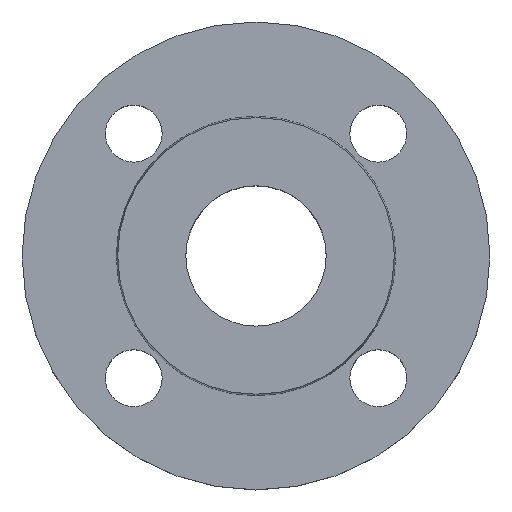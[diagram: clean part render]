
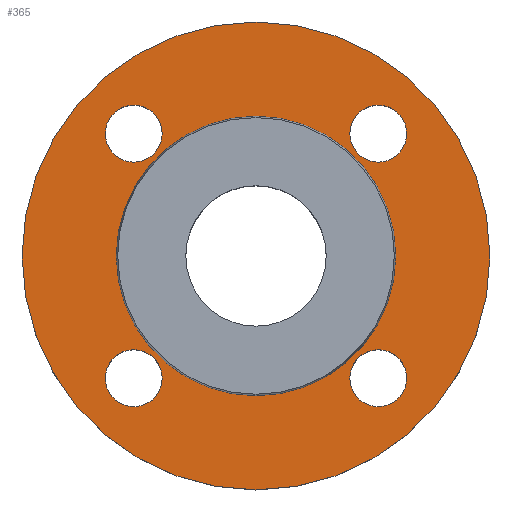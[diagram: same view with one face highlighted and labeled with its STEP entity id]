
A CAD part, top view. The second image highlights one B-rep face of the part: STEP entity #365.
In plain terms, the highlighted planar face has unit normal (0, 0, 1).
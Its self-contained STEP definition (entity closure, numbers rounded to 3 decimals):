
#4 = CIRCLE ( 'NONE', #5, 34.353 ) ;
#5 = AXIS2_PLACEMENT_3D ( 'NONE', #291, #293, #295 ) ;
#12 = AXIS2_PLACEMENT_3D ( 'NONE', #347, #348, #349 ) ;
#15 = DIRECTION ( 'NONE',  ( 0., 0., -1. ) ) ;
#17 = CARTESIAN_POINT ( 'NONE',  ( -23.052, 30.052, -2. ) ) ;
#18 = AXIS2_PLACEMENT_3D ( 'NONE', #376, #377, #378 ) ;
#20 = AXIS2_PLACEMENT_3D ( 'NONE', #108, #126, #110 ) ;
#49 = CIRCLE ( 'NONE', #52, 7. ) ;
#52 = AXIS2_PLACEMENT_3D ( 'NONE', #136, #15, #134 ) ;
#57 = CIRCLE ( 'NONE', #61, 7. ) ;
#61 = AXIS2_PLACEMENT_3D ( 'NONE', #361, #120, #139 ) ;
#62 = AXIS2_PLACEMENT_3D ( 'NONE', #350, #351, #352 ) ;
#82 = CARTESIAN_POINT ( 'NONE',  ( 37.052, 30.052, -2. ) ) ;
#85 = CARTESIAN_POINT ( 'NONE',  ( 57.5, 0., -2. ) ) ;
#86 = CARTESIAN_POINT ( 'NONE',  ( -23.052, -30.052, -2. ) ) ;
#91 = CARTESIAN_POINT ( 'NONE',  ( -37.052, 30.052, -2. ) ) ;
#92 = DIRECTION ( 'NONE',  ( 1., 0., 0. ) ) ;
#94 = CARTESIAN_POINT ( 'NONE',  ( 30.052, 30.052, -2. ) ) ;
#96 = DIRECTION ( 'NONE',  ( 0., 0., -1. ) ) ;
#97 = CARTESIAN_POINT ( 'NONE',  ( -34.353, 0., -2. ) ) ;
#108 = CARTESIAN_POINT ( 'NONE',  ( -30.052, 30.052, -2. ) ) ;
#110 = DIRECTION ( 'NONE',  ( 1., 0., 0. ) ) ;
#114 = CARTESIAN_POINT ( 'NONE',  ( 34.353, 0., -2. ) ) ;
#120 = DIRECTION ( 'NONE',  ( 0., 0., -1. ) ) ;
#123 = EDGE_CURVE ( 'NONE', #416, #560, #175, .T. ) ;
#126 = DIRECTION ( 'NONE',  ( 0., 0., -1. ) ) ;
#128 = CARTESIAN_POINT ( 'NONE',  ( 37.052, -30.052, -2. ) ) ;
#131 = CARTESIAN_POINT ( 'NONE',  ( 23.052, 30.052, -2. ) ) ;
#133 = CIRCLE ( 'NONE', #18, 7. ) ;
#134 = DIRECTION ( 'NONE',  ( 1., 0., 0. ) ) ;
#136 = CARTESIAN_POINT ( 'NONE',  ( -30.052, -30.052, -2. ) ) ;
#139 = DIRECTION ( 'NONE',  ( 1., 0., 0. ) ) ;
#142 = AXIS2_PLACEMENT_3D ( 'NONE', #643, #644, #645 ) ;
#147 = CARTESIAN_POINT ( 'NONE',  ( -57.5, 0., -2. ) ) ;
#151 = CIRCLE ( 'NONE', #20, 7. ) ;
#154 = CIRCLE ( 'NONE', #278, 7. ) ;
#175 = CIRCLE ( 'NONE', #142, 7. ) ;
#193 = CIRCLE ( 'NONE', #247, 57.5 ) ;
#195 = CARTESIAN_POINT ( 'NONE',  ( 23.052, -30.052, -2. ) ) ;
#203 = EDGE_CURVE ( 'NONE', #423, #513, #154, .T. ) ;
#226 = CIRCLE ( 'NONE', #62, 57.5 ) ;
#235 = AXIS2_PLACEMENT_3D ( 'NONE', #688, #689, #690 ) ;
#238 = CIRCLE ( 'NONE', #235, 34.353 ) ;
#242 = EDGE_CURVE ( 'NONE', #420, #594, #267, .T. ) ;
#244 = EDGE_CURVE ( 'NONE', #550, #417, #238, .T. ) ;
#247 = AXIS2_PLACEMENT_3D ( 'NONE', #327, #329, #330 ) ;
#265 = AXIS2_PLACEMENT_3D ( 'NONE', #685, #686, #687 ) ;
#267 = CIRCLE ( 'NONE', #265, 7. ) ;
#270 = AXIS2_PLACEMENT_3D ( 'NONE', #94, #96, #92 ) ;
#278 = AXIS2_PLACEMENT_3D ( 'NONE', #665, #666, #667 ) ;
#280 = CIRCLE ( 'NONE', #270, 7. ) ;
#291 = CARTESIAN_POINT ( 'NONE',  ( 0., 0., -2. ) ) ;
#293 = DIRECTION ( 'NONE',  ( 0., 0., -1. ) ) ;
#295 = DIRECTION ( 'NONE',  ( -1., 0., 0. ) ) ;
#301 = EDGE_CURVE ( 'NONE', #417, #550, #4, .T. ) ;
#327 = CARTESIAN_POINT ( 'NONE',  ( 0., 0., -2. ) ) ;
#329 = DIRECTION ( 'NONE',  ( 0., 0., -1. ) ) ;
#330 = DIRECTION ( 'NONE',  ( -1., 0., 0. ) ) ;
#338 = FACE_BOUND ( 'NONE', #582, .T. ) ;
#339 = FACE_BOUND ( 'NONE', #593, .T. ) ;
#340 = FACE_BOUND ( 'NONE', #495, .T. ) ;
#342 = FACE_BOUND ( 'NONE', #551, .T. ) ;
#343 = FACE_BOUND ( 'NONE', #515, .T. ) ;
#344 = FACE_OUTER_BOUND ( 'NONE', #506, .T. ) ;
#345 = PLANE ( 'NONE',  #12 ) ;
#346 = EDGE_CURVE ( 'NONE', #586, #517, #193, .T. ) ;
#347 = CARTESIAN_POINT ( 'NONE',  ( 34.353, 0., -2. ) ) ;
#348 = DIRECTION ( 'NONE',  ( 0., 0., 1. ) ) ;
#349 = DIRECTION ( 'NONE',  ( 1., 0., 0. ) ) ;
#350 = CARTESIAN_POINT ( 'NONE',  ( 0., 0., -2. ) ) ;
#351 = DIRECTION ( 'NONE',  ( 0., 0., -1. ) ) ;
#352 = DIRECTION ( 'NONE',  ( -1., 0., 0. ) ) ;
#361 = CARTESIAN_POINT ( 'NONE',  ( -30.052, -30.052, -2. ) ) ;
#365 = ADVANCED_FACE ( 'NONE', ( #338, #339, #340, #342, #343, #344 ), #345, .T. ) ;
#373 = EDGE_CURVE ( 'NONE', #517, #586, #226, .T. ) ;
#376 = CARTESIAN_POINT ( 'NONE',  ( 30.052, -30.052, -2. ) ) ;
#377 = DIRECTION ( 'NONE',  ( 0., 0., -1. ) ) ;
#378 = DIRECTION ( 'NONE',  ( 1., 0., 0. ) ) ;
#396 = CARTESIAN_POINT ( 'NONE',  ( -37.052, -30.052, -2. ) ) ;
#405 = EDGE_CURVE ( 'NONE', #513, #423, #133, .T. ) ;
#409 = EDGE_CURVE ( 'NONE', #560, #416, #151, .T. ) ;
#416 = VERTEX_POINT ( 'NONE', #17 ) ;
#417 = VERTEX_POINT ( 'NONE', #114 ) ;
#418 = ORIENTED_EDGE ( 'NONE', *, *, #346, .F. ) ;
#419 = EDGE_CURVE ( 'NONE', #585, #508, #49, .T. ) ;
#420 = VERTEX_POINT ( 'NONE', #131 ) ;
#423 = VERTEX_POINT ( 'NONE', #128 ) ;
#428 = ORIENTED_EDGE ( 'NONE', *, *, #373, .F. ) ;
#460 = EDGE_CURVE ( 'NONE', #508, #585, #57, .T. ) ;
#480 = ORIENTED_EDGE ( 'NONE', *, *, #203, .T. ) ;
#481 = ORIENTED_EDGE ( 'NONE', *, *, #405, .T. ) ;
#483 = ORIENTED_EDGE ( 'NONE', *, *, #419, .T. ) ;
#484 = ORIENTED_EDGE ( 'NONE', *, *, #460, .T. ) ;
#486 = ORIENTED_EDGE ( 'NONE', *, *, #123, .T. ) ;
#487 = ORIENTED_EDGE ( 'NONE', *, *, #409, .T. ) ;
#489 = ORIENTED_EDGE ( 'NONE', *, *, #554, .T. ) ;
#490 = ORIENTED_EDGE ( 'NONE', *, *, #242, .T. ) ;
#491 = ORIENTED_EDGE ( 'NONE', *, *, #244, .T. ) ;
#493 = ORIENTED_EDGE ( 'NONE', *, *, #301, .T. ) ;
#495 = EDGE_LOOP ( 'NONE', ( #486, #487 ) ) ;
#506 = EDGE_LOOP ( 'NONE', ( #418, #428 ) ) ;
#508 = VERTEX_POINT ( 'NONE', #396 ) ;
#513 = VERTEX_POINT ( 'NONE', #195 ) ;
#515 = EDGE_LOOP ( 'NONE', ( #491, #493 ) ) ;
#517 = VERTEX_POINT ( 'NONE', #147 ) ;
#550 = VERTEX_POINT ( 'NONE', #97 ) ;
#551 = EDGE_LOOP ( 'NONE', ( #489, #490 ) ) ;
#554 = EDGE_CURVE ( 'NONE', #594, #420, #280, .T. ) ;
#560 = VERTEX_POINT ( 'NONE', #91 ) ;
#582 = EDGE_LOOP ( 'NONE', ( #480, #481 ) ) ;
#585 = VERTEX_POINT ( 'NONE', #86 ) ;
#586 = VERTEX_POINT ( 'NONE', #85 ) ;
#593 = EDGE_LOOP ( 'NONE', ( #483, #484 ) ) ;
#594 = VERTEX_POINT ( 'NONE', #82 ) ;
#643 = CARTESIAN_POINT ( 'NONE',  ( -30.052, 30.052, -2. ) ) ;
#644 = DIRECTION ( 'NONE',  ( 0., 0., -1. ) ) ;
#645 = DIRECTION ( 'NONE',  ( 1., 0., 0. ) ) ;
#665 = CARTESIAN_POINT ( 'NONE',  ( 30.052, -30.052, -2. ) ) ;
#666 = DIRECTION ( 'NONE',  ( 0., 0., -1. ) ) ;
#667 = DIRECTION ( 'NONE',  ( 1., 0., 0. ) ) ;
#685 = CARTESIAN_POINT ( 'NONE',  ( 30.052, 30.052, -2. ) ) ;
#686 = DIRECTION ( 'NONE',  ( 0., 0., -1. ) ) ;
#687 = DIRECTION ( 'NONE',  ( 1., 0., 0. ) ) ;
#688 = CARTESIAN_POINT ( 'NONE',  ( 0., 0., -2. ) ) ;
#689 = DIRECTION ( 'NONE',  ( 0., 0., -1. ) ) ;
#690 = DIRECTION ( 'NONE',  ( -1., 0., 0. ) ) ;
